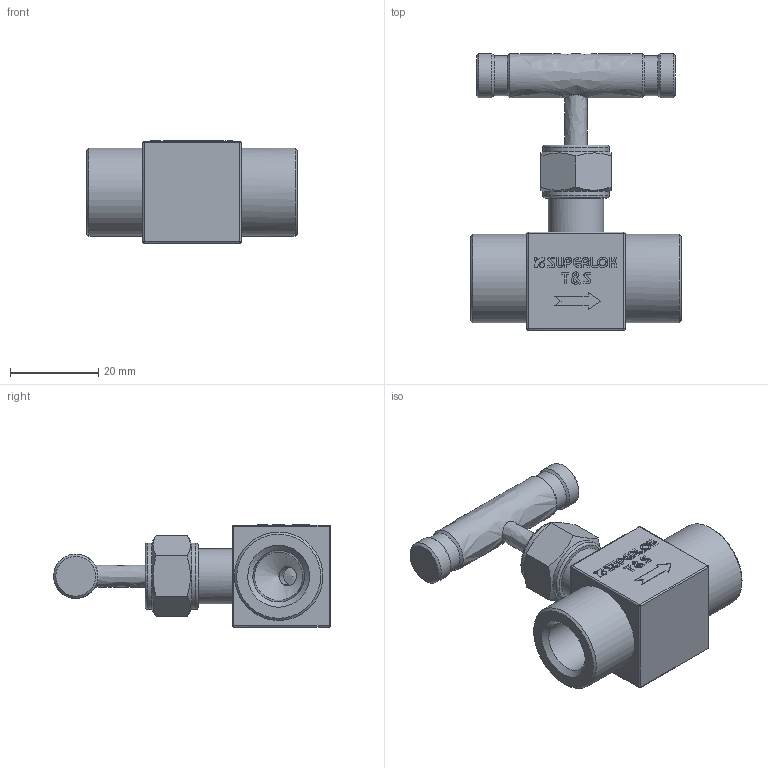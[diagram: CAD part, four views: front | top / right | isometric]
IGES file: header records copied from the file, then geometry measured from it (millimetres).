
Global section: file name: SBNV1-F4N; native system: Autodesk Inventor 2016; preprocessor: unknown; author: HP; date: 20161008.110242; units: millimetre
Bounding box: 47.6 x 62.6 x 23.1 mm (x, y, z)
Volume: 22968.3 mm3; surface area: 8483.1 mm2
Topology: 1 solids, 1 shells, 218 faces, 570 edges, 379 vertices
Faces by surface type: bspline 218
